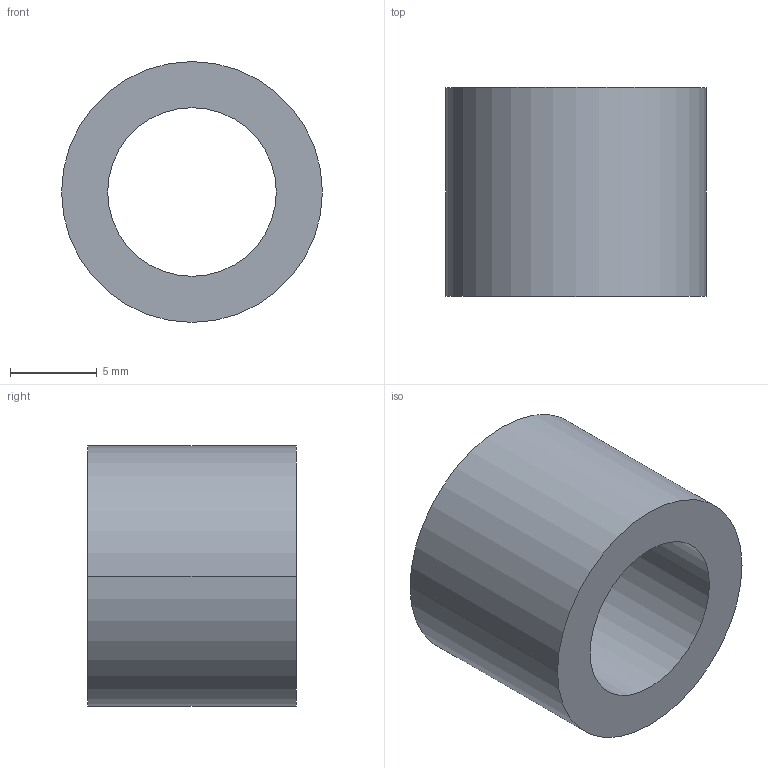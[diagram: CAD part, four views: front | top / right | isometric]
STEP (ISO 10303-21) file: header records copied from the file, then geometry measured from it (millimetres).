
FILE_DESCRIPTION (( 'STEP AP203' ), '1' );
FILE_NAME ('30800.WPP15E9.7.step', '2019-01-23T22:33:21', ( '' ), ( '' ), 'SwSTEP 2.0', 'SolidWorks 2017', '' );
FILE_SCHEMA (( 'CONFIG_CONTROL_DESIGN' ));
Length unit declared in the file: millimetre
Products named in the file (1): 30800.WPP15E9.7
Bounding box: 15 x 12 x 15 mm (x, y, z)
Volume: 1205.2 mm3; surface area: 1112.4 mm2
Topology: 1 solids, 1 shells, 8 faces, 16 edges, 10 vertices
Faces by surface type: cylinder 4, torus 2, plane 2
Entity records: 297 total; most frequent: DIRECTION 46, CARTESIAN_POINT 35, ORIENTED_EDGE 32, AXIS2_PLACEMENT_3D 21, EDGE_CURVE 16, CIRCLE 12, EDGE_LOOP 10, VERTEX_POINT 10
